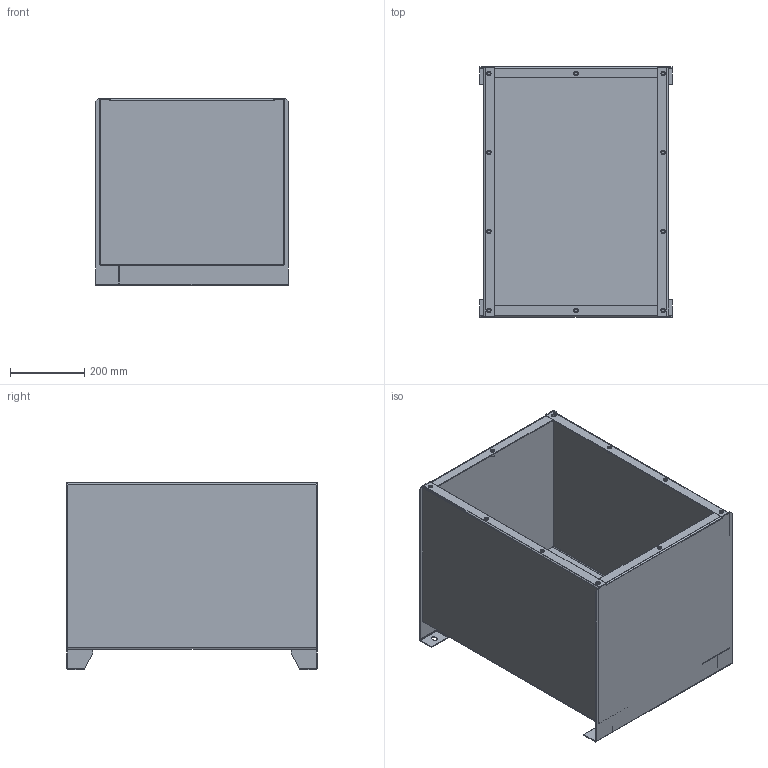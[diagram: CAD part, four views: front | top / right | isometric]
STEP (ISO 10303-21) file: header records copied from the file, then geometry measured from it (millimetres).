
FILE_DESCRIPTION(('STEP AP203'),'2;1');
FILE_NAME('CF100.stp','2009-03-03T09:36:15',(''),(''),'2008.1.107','THINKDESIGN','');
FILE_SCHEMA(('CONFIG_CONTROL_DESIGN'));
Length unit declared in the file: millimetre
Bounding box: 520 x 675 x 505.75 mm (x, y, z)
Volume: 3936975.9 mm3; surface area: 3181204.7 mm2
Topology: 18 solids, 18 shells, 308 faces, 806 edges, 546 vertices
Faces by surface type: plane 114, bspline 110, cylinder 84
Full cylindrical faces by diameter (mm): 7 x11, 9.5 x11, 11 x11, 11.2 x10, 12 x11, 19 x1, 22 x1
Entity records: 21109 total; most frequent: CARTESIAN_POINT 13176, DIRECTION 1664, ORIENTED_EDGE 1612, EDGE_CURVE 806, AXIS2_PLACEMENT_3D 660, VERTEX_POINT 546, CIRCLE 462, EDGE_LOOP 372
